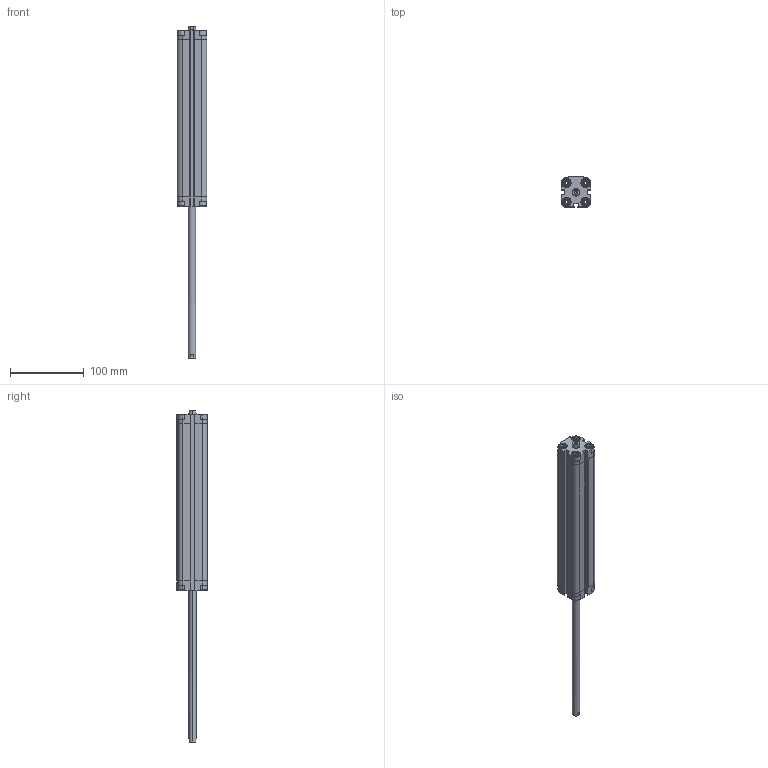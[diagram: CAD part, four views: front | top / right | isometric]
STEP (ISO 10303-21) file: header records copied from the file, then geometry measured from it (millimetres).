
FILE_DESCRIPTION (( 'STEP AP203' ), '1' );
FILE_NAME ('CDVU25-200F-P.STEP', '2020-07-24T18:11:39', ( '' ), ( '' ), 'SwSTEP 2.0', 'SolidWorks 2019', '' );
FILE_SCHEMA (( 'CONFIG_CONTROL_DESIGN' ));
Length unit declared in the file: millimetre
Products named in the file (1): CDVU25-200F-P
Bounding box: 40 x 41.5 x 450.5 mm (x, y, z)
Volume: 243842.9 mm3; surface area: 106906.7 mm2
Topology: 2 solids, 2 shells, 596 faces, 1574 edges, 1016 vertices
Faces by surface type: plane 356, cylinder 176, cone 48, torus 16
Entity records: 18577 total; most frequent: CARTESIAN_POINT 3755, ORIENTED_EDGE 3132, DIRECTION 3000, EDGE_CURVE 1566, AXIS2_PLACEMENT_3D 1029, VERTEX_POINT 1016, LINE 942, VECTOR 942
